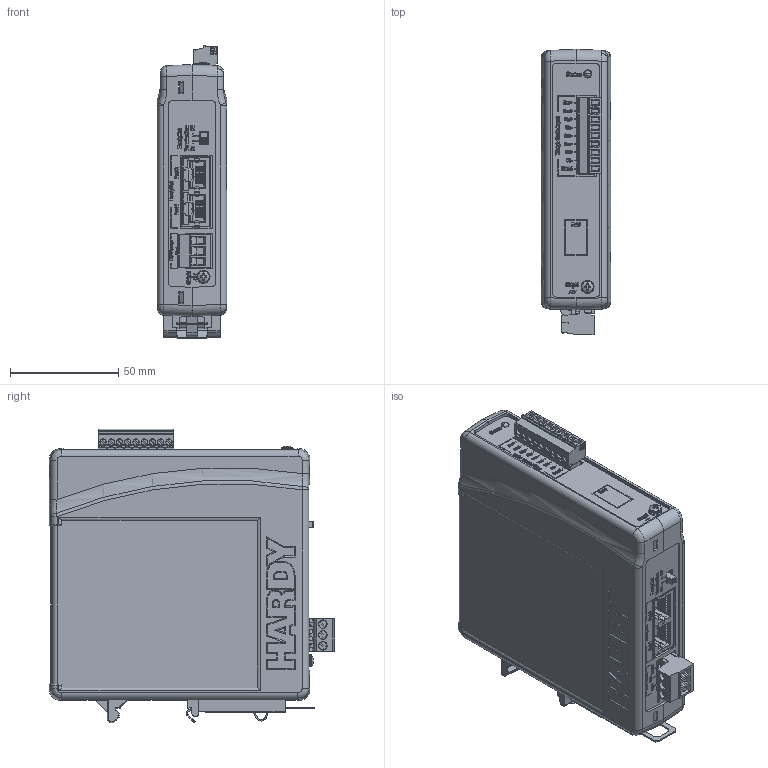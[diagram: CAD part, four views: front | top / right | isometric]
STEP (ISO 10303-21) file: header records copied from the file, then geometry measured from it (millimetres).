
FILE_DESCRIPTION (( 'STEP AP203' ), '1' );
FILE_NAME ('HI 6610-WP Weight Processing Module.STEP', '2015-11-20T16:23:04', ( 'Jim' ), ( 'Hewlett-Packard Company' ), 'SwSTEP 2.0', 'SolidWorks 2015', '' );
FILE_SCHEMA (( 'CONFIG_CONTROL_DESIGN' ));
Length unit declared in the file: inch
Products named in the file (19): 0514-0233-01-0; Power Connector Female; 0514-0230-01-0; red_green_LED; Phoenix_1803646; 2813-0148-01-0_93475A196; 0579-0023-01-0; 2813-0149-01-0_92148A070; 0579-0023-02-0; Chassis Fasterner Screw_91772A108; 2158-0039-0; 6610 Bare Board; 0505-0328-01-0; 5126-0009-0; Chassis fastener Winchester Electronics A1591B; Phoenix_1754465; 0535-0567-01-0 WO Ethernet Port; Phoenix_1803345; HI 6610-WP Weight Processing Module
Assembly tree (22 placements, depth 3):
  HI 6610-WP Weight Processing Module
    0579-0023-01-0
    0579-0023-02-0
    0535-0567-01-0 WO Ethernet Port
      6610 Bare Board
      Chassis fastener Winchester Electronics A1591B  x2
      Phoenix_1803345
      Power Connector Female
      red_green_LED
      2158-0039-0
      5126-0009-0
    0514-0233-01-0
    0514-0230-01-0
    Phoenix_1803646
    2813-0148-01-0_93475A196  x2
    2813-0149-01-0_92148A070  x2
    Chassis Fasterner Screw_91772A108  x2
    0505-0328-01-0
    Phoenix_1754465
Bounding box: 32 x 131.79 x 135.61 mm (x, y, z)
Volume: 121766.6 mm3; surface area: 132695 mm2
Topology: 21 solids, 24 shells, 7106 faces, 19147 edges, 12434 vertices
Faces by surface type: plane 4555, cylinder 1323, bspline 1068, cone 99, torus 57, sphere 4
Entity records: 263169 total; most frequent: CARTESIAN_POINT 94161, ORIENTED_EDGE 37302, DIRECTION 29872, EDGE_CURVE 18656, VECTOR 13646, LINE 13646, VERTEX_POINT 12151, AXIS2_PLACEMENT_3D 8113
